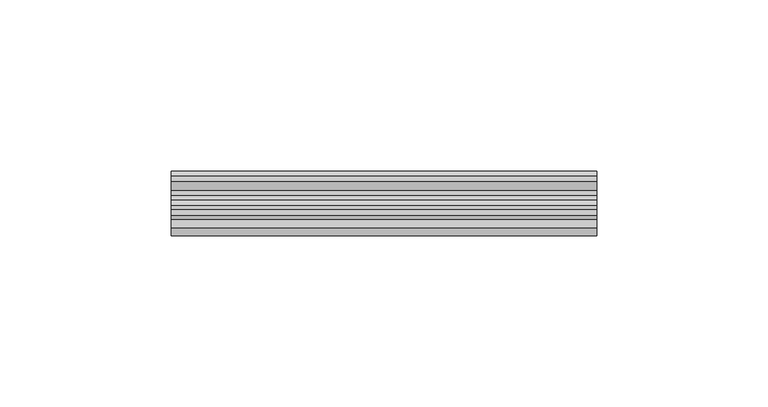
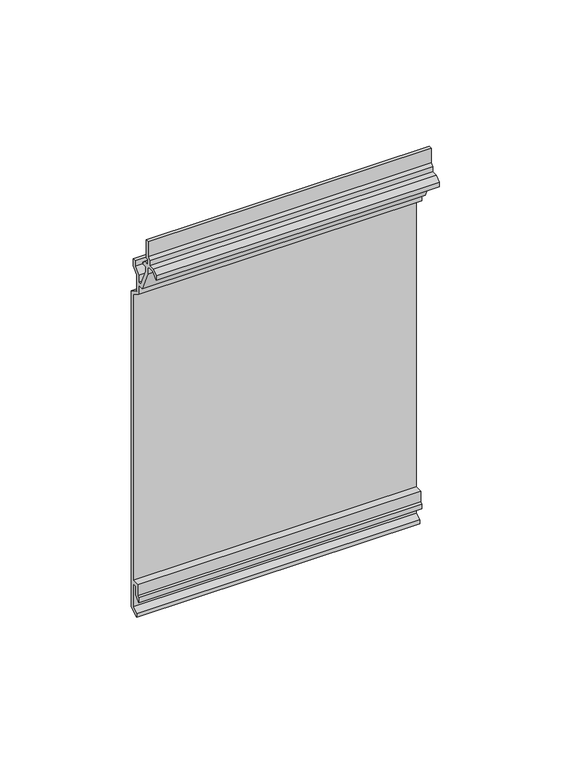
"""IFC4 building model written with IfcOpenShell, lengths in millimetres: plate geometry, FastPlank_P46V-V-Notch-6″-Plank-Horizontal : P46V-V-Notch-6″-Plank-Horizontal."""

from ifc_helpers import new_model, si_unit, frame, origin, place, context, project, spatial, polyline, outline, extrude, source, transform, mapped, element, save


def plate_b794fd4a(model_context):
    return source(origin(), model_context, "Body", "SweptSolid", [
        extrude(outline(polyline([(18.8745946, 2.3957023), (14.7246029, 0.0), (14.7246029, 1.7319938), (17.3745976, 3.2617795), (17.3745976, 13.9827581), (15.5246013, 13.9827581), (15.5246013, 9.9691576), (13.3162936, 7.7608499), (13.3162936, 9.8794005), (14.0246043, 10.5877112), (14.0246043, 15.4863039), (17.5745972, 15.4863039), (17.5745972, 148.4995307), (13.2246059, 151.0109994), (13.2246059, 155.1199676), (10.7243127, 155.1199676), (6.5338639, 164.5069184), (6.5338639, 167.3223922), (5.0811989, 168.1610887), (2.6937325, 168.1610887), (0.0, 165.4673563), (0.0, 167.5854467), (2.1334241, 169.4610861), (4.7821608, 169.4610861), (4.7821608, 171.7897723), (6.0321583, 172.8887309), (6.0321583, 179.7369904), (7.5321553, 179.7369904), (7.5321553, 171.4038751), (6.2821578, 171.4038751), (6.2821578, 168.9369783), (8.8232117, 168.9369783), (10.3184198, 167.7687937), (9.7191932, 167.0018186), (8.0338609, 167.0018186), (8.0338609, 164.7982203), (11.708109, 156.5946482), (13.2246059, 156.5946482), (13.2246059, 159.7821164), (15.8746006, 162.4321111), (15.8746006, 165.1186601), (17.3745976, 165.1186601), (17.3745976, 161.810792), (14.7246029, 159.1607973), (14.7246029, 151.6460834), (18.8745946, 149.2500846), (18.8745946, 2.3957023)])), frame((-62.199981, 0.0, 0.0), z_axis=(1.0, 0.0, 0.0), x_axis=(0.0, 1.0, 0.0)), (0.0, 0.0, 1.0), 124.3999619),
    ])


if __name__ == "__main__":
    model = new_model("IFC4")
    model_context = context("Model", 3, world=origin())
    ifc_project = project(units=[si_unit("LENGTHUNIT", "METRE", prefix="MILLI")], contexts=[model_context])
    site = spatial("IfcSite", under=ifc_project)
    building = spatial("IfcBuilding", under=site)
    placement = place(None, origin())
    plate_shape = plate_b794fd4a(model_context)
    element("IfcPlate", 1, ObjectType="FastPlank_P46V-V-Notch-6″-Plank-Horizontal : P46V-V-Notch-6″-Plank-Horizontal", at=placement, inside=building, context=model_context, shape_type="MappedRepresentation", body=[
        mapped(plate_shape, transform((0.0, 0.0, 0.0), x_axis=(1.0, 0.0, 0.0), y_axis=(0.0, 1.0, 0.0), z_axis=(0.0, 0.0, 1.0))),
    ])
    save(model, "model.ifc")
